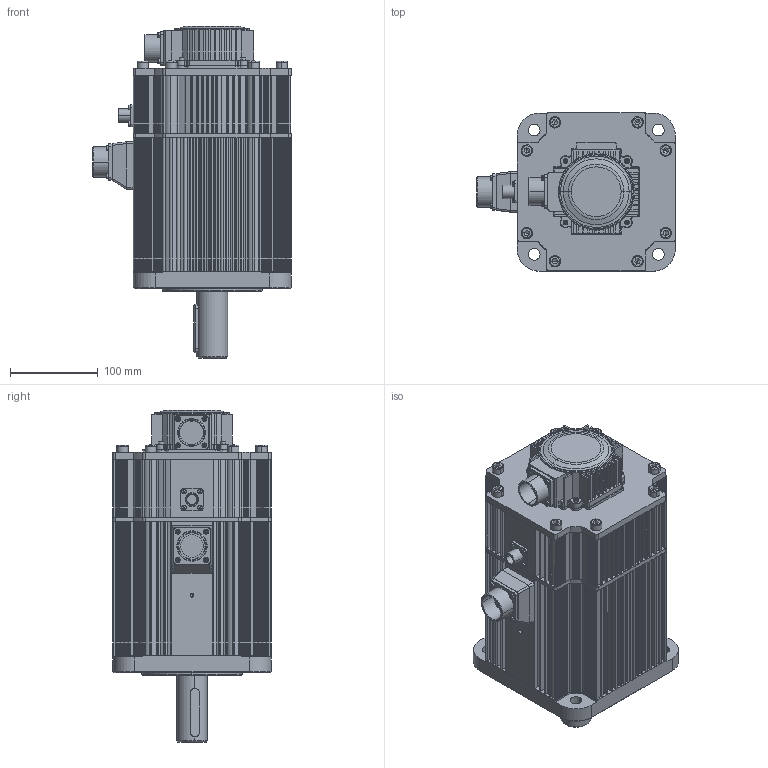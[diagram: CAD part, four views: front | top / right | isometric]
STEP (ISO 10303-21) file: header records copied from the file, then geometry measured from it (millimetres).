
FILE_DESCRIPTION (( 'STEP AP214' ), '1' );
FILE_NAME ('EMG-30（抱闸）.STEP', '2020-03-30T10:33:51', ( '' ), ( '' ), 'SwSTEP 2.0', 'SolidWorks 2018', '' );
FILE_SCHEMA (( 'AUTOMOTIVE_DESIGN' ));
Length unit declared in the file: millimetre
Products named in the file (70): hexagon socket head cap screws gb_GB_FASTENER_SCREWS_HSHCS M8X25-NHDA; hexagon socket head cap screws gb; 12; 13; 11; 10; 9; 16; 7; 15; 6; 14; 5; 3; 1; 2; 4; EMG-30ㄗ惕掅ㄘ; hexagon socket head cap screws gb_GB_FASTENER_SCREWS_HSHCS M5X16-NHDA; hexagon socket head cap screws gb_GB_FASTENER_SCREWS_HSHCS M3X16-NHDA
Assembly tree (51 placements, depth 2):
  hexagon socket head cap screws gb
  hexagon socket head cap screws gb
  12
  hexagon socket head cap screws gb
  hexagon socket head cap screws gb
Bounding box: 226.1 x 180 x 378 mm (x, y, z)
Volume: 6483622.9 mm3; surface area: 851304.3 mm2
Topology: 51 solids, 53 shells, 3412 faces, 8972 edges, 5715 vertices
Faces by surface type: cylinder 1507, plane 1468, cone 293, torus 144
Entity records: 86465 total; most frequent: CARTESIAN_POINT 15430, DIRECTION 15216, ORIENTED_EDGE 14112, EDGE_CURVE 7056, AXIS2_PLACEMENT_3D 5668, VERTEX_POINT 4626, LINE 3880, VECTOR 3880
